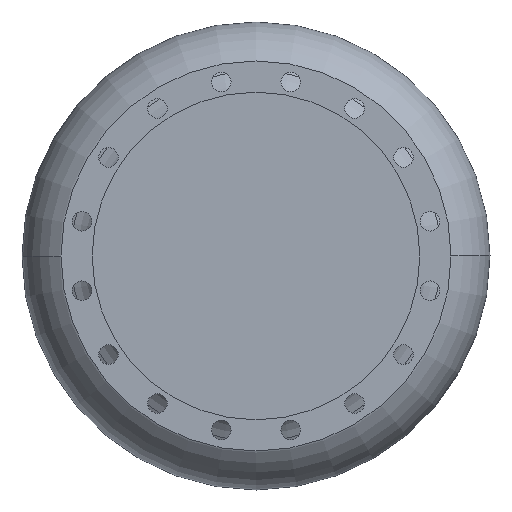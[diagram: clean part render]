
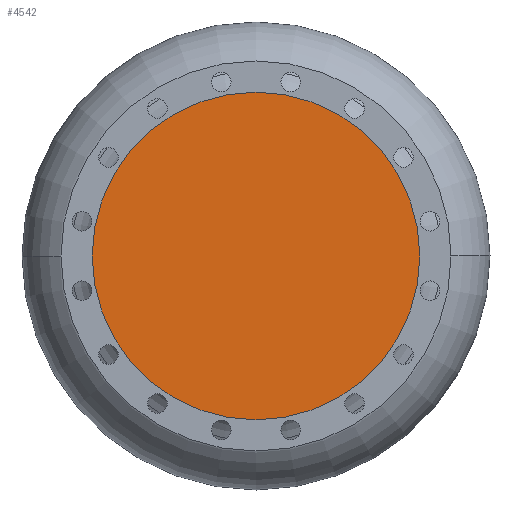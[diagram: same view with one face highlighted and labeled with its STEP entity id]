
A CAD part, left-side view. The second image highlights one B-rep face of the part: STEP entity #4542.
In plain terms, the highlighted planar face has unit normal (-1, 0, 0).
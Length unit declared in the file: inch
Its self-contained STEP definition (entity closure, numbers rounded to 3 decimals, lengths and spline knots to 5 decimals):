
#220 = CARTESIAN_POINT ( 'NONE',  ( -24.33, 0., 0. ) ) ;
#239 = CARTESIAN_POINT ( 'NONE',  ( -24.33, -10.5, 0. ) ) ;
#541 = DIRECTION ( 'NONE',  ( 0., 1., 0. ) ) ;
#555 = VERTEX_POINT ( 'NONE', #4143 ) ;
#584 = EDGE_CURVE ( 'Defeatured_0_15+Defeatured_0_16+Defeatured_0_16+Defeatured_0_16', #4664, #555, #4049, .T. ) ;
#708 = FACE_OUTER_BOUND ( 'NONE', #1841, .T. ) ;
#1138 = DIRECTION ( 'NONE',  ( 0., 1., 0. ) ) ;
#1659 = AXIS2_PLACEMENT_3D ( 'NONE', #3801, #4305, #1138 ) ;
#1841 = EDGE_LOOP ( 'NONE', ( #3299, #3066 ) ) ;
#1924 = PLANE ( 'NONE',  #1659 ) ;
#1968 = DIRECTION ( 'NONE',  ( 1., 0., 0. ) ) ;
#2082 = AXIS2_PLACEMENT_3D ( 'NONE', #3725, #3985, #2411 ) ;
#2411 = DIRECTION ( 'NONE',  ( 0., 1., 0. ) ) ;
#2485 = EDGE_CURVE ( 'Defeatured_0_15+Defeatured_0_16+Defeatured_0_16+Defeatured_0_16', #555, #4664, #3278, .T. ) ;
#3066 = ORIENTED_EDGE ( 'NONE', *, *, #584, .F. ) ;
#3104 = AXIS2_PLACEMENT_3D ( 'NONE', #220, #1968, #541 ) ;
#3278 = CIRCLE ( 'NONE', #3104, 10.5 ) ;
#3299 = ORIENTED_EDGE ( 'NONE', *, *, #2485, .F. ) ;
#3725 = CARTESIAN_POINT ( 'NONE',  ( -24.33, 0., 0. ) ) ;
#3801 = CARTESIAN_POINT ( 'NONE',  ( -24.33, 10.5, 0. ) ) ;
#3985 = DIRECTION ( 'NONE',  ( 1., 0., 0. ) ) ;
#4049 = CIRCLE ( 'NONE', #2082, 10.5 ) ;
#4143 = CARTESIAN_POINT ( 'NONE',  ( -24.33, 10.5, 0. ) ) ;
#4305 = DIRECTION ( 'NONE',  ( 1., 0., 0. ) ) ;
#4542 = ADVANCED_FACE ( 'Defeatured_0_16', ( #708 ), #1924, .F. ) ;
#4664 = VERTEX_POINT ( 'NONE', #239 ) ;
